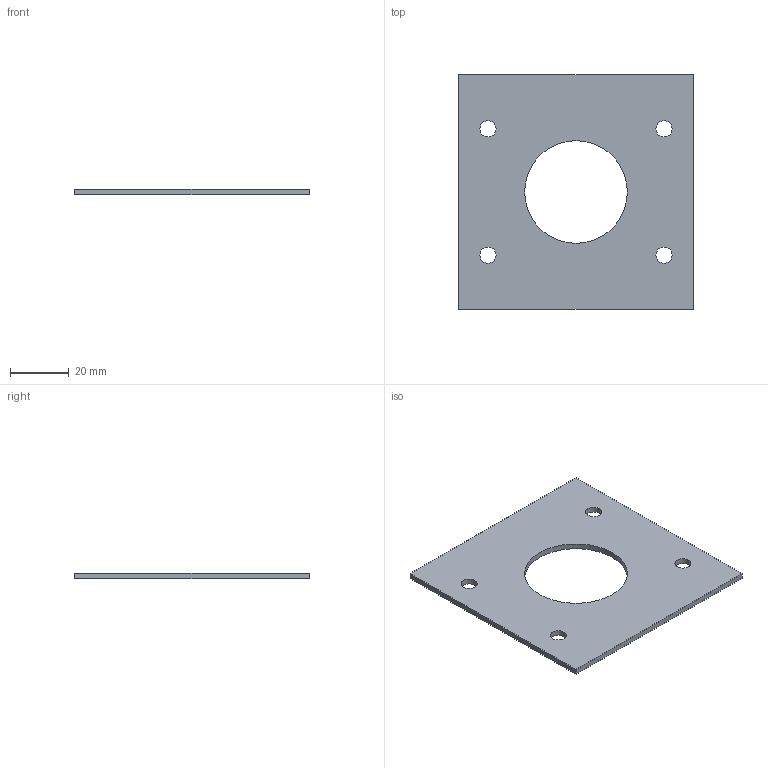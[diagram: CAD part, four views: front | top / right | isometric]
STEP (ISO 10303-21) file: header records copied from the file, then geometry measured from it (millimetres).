
FILE_DESCRIPTION(('STEP AP214'),'1');
FILE_NAME('SCG 1 cut-out Rev A.step','2021-06-09T19:08:26',(' '),(' '),'Spatial InterOp 3D',' ',' ');
FILE_SCHEMA(('AUTOMOTIVE_DESIGN { 1 0 10303 214 1 1 1 1 }'));
Length unit declared in the file: millimetre
Products named in the file (1): SCG 1 cut_out
Bounding box: 80 x 80 x 2 mm (x, y, z)
Volume: 10685.7 mm3; surface area: 11683.8 mm2
Topology: 1 solids, 1 shells, 11 faces, 29 edges, 20 vertices
Faces by surface type: plane 6, cylinder 5
Full cylindrical faces by diameter (mm): 5.5 x4, 35 x1
Entity records: 430 total; most frequent: DIRECTION 56, CARTESIAN_POINT 52, ORIENTED_EDGE 44, EDGE_LOOP 26, AXIS2_PLACEMENT_3D 22, EDGE_CURVE 22, VERTEX_POINT 18, FACE_OUTER_BOUND 16
